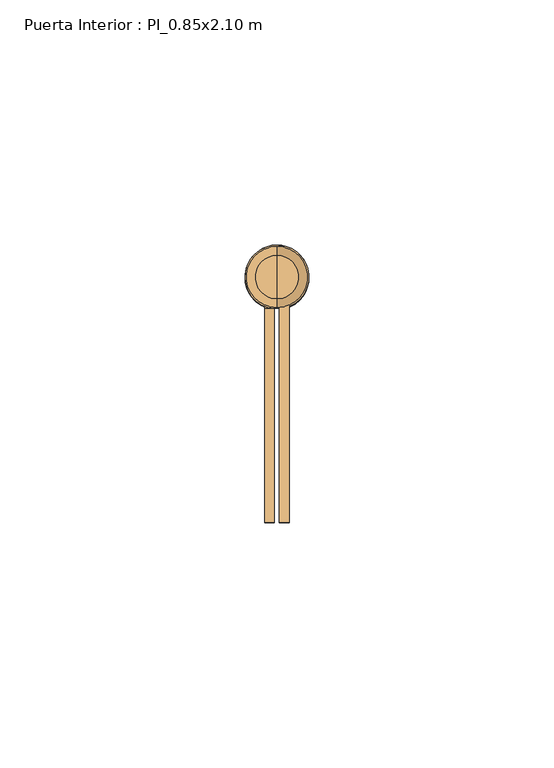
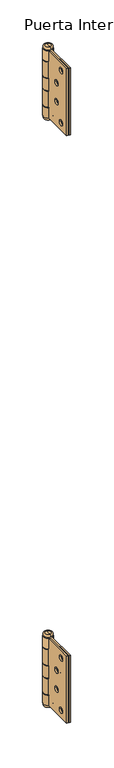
"""IFC4 building model written with IfcOpenShell, lengths in millimetres: door geometry, Puerta Interior : PI_0.85x2.10 m."""

from ifc_helpers import new_model, si_unit, point, frame, origin, place, context, project, spatial, polyline, circle_curve, ellipse_curve, trimmed, source, transform, mapped, element, save
from ifc_brep_helpers import plane_surface, cylinder_surface, revolved_surface, advanced_brep


def puerta_interior_pi_0_85x2_10_m_7d8cd98e(model_context):
    return source(origin(), model_context, "Body", "AdvancedBrep", [
        advanced_brep(
        [(-389.0, 7.5, 1950.0), (-389.0, 7.5, 1850.0), (-389.0, 51.5, 1850.0), (-389.0, 51.5, 1865.5), (-389.0, 51.0, 1865.5), (-389.0, 51.0, 1891.0), (-389.0, 51.5, 1891.0), (-389.0, 51.5, 1909.0), (-389.0, 51.0, 1909.0), (-389.0, 51.0, 1934.5), (-389.0, 51.5, 1934.5), (-389.0, 51.5, 1950.0), (-389.0, 17.5, 1861.0), (-389.0, 25.5, 1861.0), (-389.0, 28.5, 1886.0), (-389.0, 36.5, 1886.0), (-389.0, 17.5, 1939.0), (-389.0, 25.5, 1939.0), (-389.0, 28.5, 1914.0), (-389.0, 36.5, 1914.0), (-391.0, 7.5, 1850.0), (-391.0, 7.5, 1950.0), (-391.0, 53.027864, 1950.0), (-391.0, 53.027864, 1934.5), (-391.0, 51.0, 1934.5), (-391.0, 51.0, 1909.0), (-391.0, 53.027864, 1909.0), (-391.0, 53.027864, 1891.0), (-391.0, 51.0, 1891.0), (-391.0, 51.0, 1865.5), (-391.0, 53.027864, 1865.5), (-391.0, 53.027864, 1850.0), (-391.0, 25.5, 1861.0), (-391.0, 17.5, 1861.0), (-391.0, 36.5, 1886.0), (-391.0, 28.5, 1886.0), (-391.0, 25.5, 1939.0), (-391.0, 17.5, 1939.0), (-391.0, 36.5, 1914.0), (-391.0, 28.5, 1914.0), (-392.0, 53.027864, 1850.0), (-392.0, 51.0192593, 1850.0), (-392.0, 51.0192593, 1950.0), (-392.0, 53.027864, 1950.0), (-392.0, 53.027864, 1934.5), (-392.0, 51.0192593, 1934.5), (-392.0, 51.0192593, 1909.0), (-392.0, 53.027864, 1909.0), (-392.0, 53.027864, 1891.0), (-392.0, 51.0192593, 1891.0), (-392.0, 51.0192593, 1865.5), (-392.0, 53.027864, 1865.5)],
        [
            (0, 1),
            (1, 2),
            (2, 3),
            (3, 4),
            (4, 5),
            (5, 6),
            (6, 7),
            (7, 8),
            (8, 9),
            (9, 10),
            (10, 11),
            (11, 0),
            (12, 13, circle_curve(frame((-389.0, 21.5, 1861.0), z_axis=(-1.0, 0.0, 0.0), x_axis=(0.0, -1.0, 0.0)), 4.0)),
            (13, 12, circle_curve(frame((-389.0, 21.5, 1861.0), z_axis=(-1.0, 0.0, 0.0), x_axis=(0.0, -1.0, 0.0)), 4.0)),
            (14, 15, circle_curve(frame((-389.0, 32.5, 1886.0), z_axis=(-1.0, 0.0, 0.0), x_axis=(0.0, -1.0, 0.0)), 4.0)),
            (15, 14, circle_curve(frame((-389.0, 32.5, 1886.0), z_axis=(-1.0, 0.0, 0.0), x_axis=(0.0, -1.0, 0.0)), 4.0)),
            (16, 17, circle_curve(frame((-389.0, 21.5, 1939.0), z_axis=(-1.0, 0.0, 0.0), x_axis=(0.0, -1.0, 0.0)), 4.0)),
            (17, 16, circle_curve(frame((-389.0, 21.5, 1939.0), z_axis=(-1.0, 0.0, 0.0), x_axis=(0.0, -1.0, 0.0)), 4.0)),
            (18, 19, circle_curve(frame((-389.0, 32.5, 1914.0), z_axis=(-1.0, 0.0, 0.0), x_axis=(0.0, -1.0, 0.0)), 4.0)),
            (19, 18, circle_curve(frame((-389.0, 32.5, 1914.0), z_axis=(-1.0, 0.0, 0.0), x_axis=(0.0, -1.0, 0.0)), 4.0)),
            (20, 21),
            (21, 22),
            (22, 23),
            (23, 24),
            (24, 25),
            (25, 26),
            (26, 27),
            (27, 28),
            (28, 29),
            (29, 30),
            (30, 31),
            (31, 20),
            (32, 33, circle_curve(frame((-391.0, 21.5, 1861.0), z_axis=(1.0, 0.0, 0.0), x_axis=(0.0, -1.0, 0.0)), 4.0)),
            (33, 32, circle_curve(frame((-391.0, 21.5, 1861.0), z_axis=(1.0, 0.0, 0.0), x_axis=(0.0, -1.0, 0.0)), 4.0)),
            (34, 35, circle_curve(frame((-391.0, 32.5, 1886.0), z_axis=(1.0, 0.0, 0.0), x_axis=(0.0, -1.0, 0.0)), 4.0)),
            (35, 34, circle_curve(frame((-391.0, 32.5, 1886.0), z_axis=(1.0, 0.0, 0.0), x_axis=(0.0, -1.0, 0.0)), 4.0)),
            (36, 37, circle_curve(frame((-391.0, 21.5, 1939.0), z_axis=(1.0, 0.0, 0.0), x_axis=(0.0, -1.0, 0.0)), 4.0)),
            (37, 36, circle_curve(frame((-391.0, 21.5, 1939.0), z_axis=(1.0, 0.0, 0.0), x_axis=(0.0, -1.0, 0.0)), 4.0)),
            (38, 39, circle_curve(frame((-391.0, 32.5, 1914.0), z_axis=(1.0, 0.0, 0.0), x_axis=(0.0, -1.0, 0.0)), 4.0)),
            (39, 38, circle_curve(frame((-391.0, 32.5, 1914.0), z_axis=(1.0, 0.0, 0.0), x_axis=(0.0, -1.0, 0.0)), 4.0)),
            (1, 20),
            (31, 40, circle_curve(frame((-391.5, 57.5, 1850.0), z_axis=(0.0, 0.0, 1.0), x_axis=(0.0, 1.0, 0.0)), 4.5)),
            (40, 41),
            (41, 2, circle_curve(frame((-391.5, 57.5, 1850.0), z_axis=(0.0, 0.0, -1.0), x_axis=(0.0, 1.0, 0.0)), 6.5)),
            (0, 21),
            (11, 42, circle_curve(frame((-391.5, 57.5, 1950.0), z_axis=(0.0, 0.0, 1.0), x_axis=(0.0, 1.0, 0.0)), 6.5)),
            (42, 43),
            (43, 22, circle_curve(frame((-391.5, 57.5, 1950.0), z_axis=(0.0, 0.0, -1.0), x_axis=(0.0, 1.0, 0.0)), 4.5)),
            (24, 9),
            (8, 25),
            (28, 5),
            (4, 29),
            (23, 44, circle_curve(frame((-391.5, 57.5, 1934.5), z_axis=(0.0, 0.0, 1.0), x_axis=(0.0, 1.0, 0.0)), 4.5)),
            (44, 45),
            (45, 10, circle_curve(frame((-391.5, 57.5, 1934.5), z_axis=(0.0, 0.0, -1.0), x_axis=(0.0, 1.0, 0.0)), 6.5)),
            (45, 42),
            (44, 43),
            (7, 46, circle_curve(frame((-391.5, 57.5, 1909.0), z_axis=(0.0, 0.0, 1.0), x_axis=(0.0, 1.0, 0.0)), 6.5)),
            (46, 47),
            (47, 26, circle_curve(frame((-391.5, 57.5, 1909.0), z_axis=(0.0, 0.0, -1.0), x_axis=(0.0, 1.0, 0.0)), 4.5)),
            (27, 48, circle_curve(frame((-391.5, 57.5, 1891.0), z_axis=(0.0, 0.0, 1.0), x_axis=(0.0, 1.0, 0.0)), 4.5)),
            (48, 49),
            (49, 6, circle_curve(frame((-391.5, 57.5, 1891.0), z_axis=(0.0, 0.0, -1.0), x_axis=(0.0, 1.0, 0.0)), 6.5)),
            (49, 46),
            (48, 47),
            (3, 50, circle_curve(frame((-391.5, 57.5, 1865.5), z_axis=(0.0, 0.0, 1.0), x_axis=(0.0, 1.0, 0.0)), 6.5)),
            (50, 51),
            (51, 30, circle_curve(frame((-391.5, 57.5, 1865.5), z_axis=(0.0, 0.0, -1.0), x_axis=(0.0, 1.0, 0.0)), 4.5)),
            (41, 50),
            (40, 51),
            (32, 13),
            (12, 33),
            (34, 15),
            (14, 35),
            (36, 17),
            (16, 37),
            (38, 19),
            (18, 39),
        ],
        [
            plane_surface(frame((-389.0, 51.0, 1850.0), z_axis=(1.0, 0.0, 0.0), x_axis=(0.0, 0.0, 1.0))),
            plane_surface(frame((-391.0, 51.0, 1850.0), z_axis=(-1.0, 0.0, 0.0), x_axis=(0.0, 0.0, -1.0))),
            plane_surface(frame((-389.0, 7.5, 1850.0), z_axis=(0.0, 0.0, -1.0), x_axis=(-1.0, 0.0, 0.0))),
            plane_surface(frame((-389.0, 7.5, 1950.0), z_axis=(0.0, -1.0, 0.0), x_axis=(-1.0, 0.0, 0.0))),
            plane_surface(frame((-389.0, 51.0, 1950.0), z_axis=(0.0, 0.0, 1.0), x_axis=(-1.0, 0.0, 0.0))),
            plane_surface(frame((-389.0, 51.0, 1850.0), z_axis=(0.0, 1.0, 0.0), x_axis=(-1.0, 0.0, 0.0))),
            plane_surface(frame((-391.0, 51.0, 1934.5), z_axis=(0.0, 0.0, -1.0), x_axis=(0.0, 1.0, 0.0))),
            cylinder_surface(frame((-391.5, 57.5, 1934.5), z_axis=(0.0, 0.0, 1.0), x_axis=(0.0, 1.0, 0.0)), 6.5),
            plane_surface(frame((-392.0, 51.0192593, 1950.0), z_axis=(1.0, 0.0, 0.0), x_axis=(0.0, 0.0, -1.0))),
            revolved_surface(polyline([(-391.5, 62.0, 1934.5), (-391.5, 62.0, 1950.0)]), (-391.5, 57.5, 1934.5), (0.0, 0.0, -1.0)),
            plane_surface(frame((-391.0, 51.0, 1909.0), z_axis=(0.0, 0.0, 1.0), x_axis=(0.0, -1.0, 0.0))),
            plane_surface(frame((-391.0, 51.0, 1891.0), z_axis=(0.0, 0.0, -1.0), x_axis=(0.0, 1.0, 0.0))),
            cylinder_surface(frame((-391.5, 57.5, 1891.0), z_axis=(0.0, 0.0, 1.0), x_axis=(0.0, 1.0, 0.0)), 6.5),
            plane_surface(frame((-392.0, 51.0192593, 1909.0), z_axis=(1.0, 0.0, 0.0), x_axis=(0.0, 0.0, -1.0))),
            revolved_surface(polyline([(-391.5, 62.0, 1891.0), (-391.5, 62.0, 1909.0)]), (-391.5, 57.5, 1891.0), (0.0, 0.0, -1.0)),
            plane_surface(frame((-391.0, 51.0, 1865.5), z_axis=(0.0, 0.0, 1.0), x_axis=(0.0, -1.0, 0.0))),
            cylinder_surface(frame((-391.5, 57.5, 1850.0), z_axis=(0.0, 0.0, 1.0), x_axis=(0.0, 1.0, 0.0)), 6.5),
            plane_surface(frame((-392.0, 51.0192593, 1865.5), z_axis=(1.0, 0.0, 0.0), x_axis=(0.0, 0.0, -1.0))),
            revolved_surface(polyline([(-391.5, 62.0, 1850.0), (-391.5, 62.0, 1865.5)]), (-391.5, 57.5, 1850.0), (0.0, 0.0, -1.0)),
            revolved_surface(polyline([(-389.0, 17.5, 1861.0), (-391.0, 17.5, 1861.0)]), (-394.0, 21.5, 1861.0), (1.0, 0.0, 0.0)),
            revolved_surface(polyline([(-389.0, 28.5, 1886.0), (-391.0, 28.5, 1886.0)]), (-392.0, 32.5, 1886.0), (1.0, 0.0, 0.0)),
            revolved_surface(polyline([(-389.0, 17.5, 1939.0), (-391.0, 17.5, 1939.0)]), (-392.0, 21.5, 1939.0), (1.0, 0.0, 0.0)),
            revolved_surface(polyline([(-389.0, 28.5, 1914.0), (-391.0, 28.5, 1914.0)]), (-392.0, 32.5, 1914.0), (1.0, 0.0, 0.0)),
        ],
        [
            (0, [[1, 2, 3, 4, 5, 6, 7, 8, 9, 10, 11, 12], [13, 14], [15, 16], [17, 18], [19, 20]]),
            (1, [[21, 22, 23, 24, 25, 26, 27, 28, 29, 30, 31, 32], [33, 34], [35, 36], [37, 38], [39, 40]]),
            (2, [[41, -32, 42, 43, 44, -2]]),
            (3, [[-1, 45, -21, -41]]),
            (4, [[-45, -12, 46, 47, 48, -22]]),
            (5, [[49, -9, 50, -25]]),
            (5, [[51, -5, 52, -29]]),
            (6, [[53, 54, 55, -10, -49, -24]]),
            (7, [[-46, -11, -55, 56]]),
            (8, [[-47, -56, -54, 57]]),
            (9, [[-48, -57, -53, -23]]),
            (10, [[58, 59, 60, -26, -50, -8]]),
            (11, [[61, 62, 63, -6, -51, -28]]),
            (12, [[-58, -7, -63, 64]]),
            (13, [[-59, -64, -62, 65]]),
            (14, [[-60, -65, -61, -27]]),
            (15, [[66, 67, 68, -30, -52, -4]]),
            (16, [[-66, -3, -44, 69]]),
            (17, [[-67, -69, -43, 70]]),
            (18, [[-68, -70, -42, -31]]),
            (19, [[71, -13, 72, -33]]),
            (19, [[-71, -34, -72, -14]]),
            (20, [[73, -15, 74, -35]]),
            (20, [[-73, -36, -74, -16]]),
            (21, [[75, -17, 76, -37]]),
            (21, [[-75, -38, -76, -18]]),
            (22, [[77, -19, 78, -39]]),
            (22, [[-77, -40, -78, -20]]),
        ],
    ),
        advanced_brep(
        [(-391.5, 53.0, 1954.0), (-391.5, 61.9442719, 1954.0), (-391.5, 61.9442719, 1950.5), (-391.5, 53.0, 1950.5), (-391.5, 57.472136, 1954.0), (-391.5, 53.0, 1846.0), (-391.5, 61.9442719, 1846.0), (-391.5, 57.472136, 1846.0), (-391.5, 53.0, 1849.5), (-391.5, 61.9442719, 1849.5)],
        [
            (0, 1, circle_curve(frame((-391.5, 57.472136, 1954.0), z_axis=(0.0, 0.0, -1.0), x_axis=(0.0, 1.0, 0.0)), 4.472136)),
            (1, 2, circle_curve(frame((-391.5, 61.9442719, 1952.25), z_axis=(-1.0, 0.0, 0.0), x_axis=(0.0, -1.0, 0.0)), 1.75)),
            (2, 3, circle_curve(frame((-391.5, 57.472136, 1950.5), z_axis=(0.0, 0.0, 1.0), x_axis=(0.0, 1.0, 0.0)), 4.472136)),
            (3, 0, circle_curve(frame((-391.5, 53.0, 1952.25), z_axis=(-1.0, 0.0, 0.0), x_axis=(0.0, 1.0, 0.0)), 1.75)),
            (1, 0, circle_curve(frame((-391.5, 57.472136, 1954.0), z_axis=(0.0, 0.0, -1.0), x_axis=(0.0, 1.0, 0.0)), 4.472136)),
            (3, 2, circle_curve(frame((-391.5, 57.472136, 1950.5), z_axis=(0.0, 0.0, 1.0), x_axis=(0.0, 1.0, 0.0)), 4.472136)),
            (4, 1),
            (0, 4),
            (5, 6, circle_curve(frame((-391.5, 57.472136, 1846.0), z_axis=(0.0, 0.0, -1.0), x_axis=(0.0, 1.0, 0.0)), 4.472136)),
            (6, 7),
            (7, 5),
            (6, 5, circle_curve(frame((-391.5, 57.472136, 1846.0), z_axis=(0.0, 0.0, -1.0), x_axis=(0.0, 1.0, 0.0)), 4.472136)),
            (8, 9, circle_curve(frame((-391.5, 57.472136, 1849.5), z_axis=(0.0, 0.0, -1.0), x_axis=(0.0, 1.0, 0.0)), 4.472136)),
            (9, 6, circle_curve(frame((-391.5, 61.9442719, 1847.75), z_axis=(-1.0, 0.0, 0.0), x_axis=(0.0, -1.0, 0.0)), 1.75)),
            (5, 8, circle_curve(frame((-391.5, 53.0, 1847.75), z_axis=(-1.0, 0.0, 0.0), x_axis=(0.0, 1.0, 0.0)), 1.75)),
            (9, 8, circle_curve(frame((-391.5, 57.472136, 1849.5), z_axis=(0.0, 0.0, -1.0), x_axis=(0.0, 1.0, 0.0)), 4.472136)),
            (2, 9),
            (8, 3),
        ],
        [
            revolved_surface(trimmed(ellipse_curve(frame((-391.5, 61.9442719, 1952.25), z_axis=(1.0, 0.0, 0.0), x_axis=(0.0, -1.0, 0.0)), 1.75, 1.75), [point((-391.5, 61.9442719, 1950.5))], [point((-391.5, 61.9442719, 1954.0))], True, "CARTESIAN"), (-391.5, 57.472136, 1954.0), (0.0, 0.0, 1.0)),
            plane_surface(frame((-391.5, 57.472136, 1954.0), z_axis=(0.0, 0.0, 1.0), x_axis=(0.0, 1.0, 0.0))),
            plane_surface(frame((-391.5, 57.472136, 1846.0), z_axis=(0.0, 0.0, -1.0), x_axis=(0.0, 1.0, 0.0))),
            revolved_surface(trimmed(ellipse_curve(frame((-391.5, 61.9442719, 1847.75), z_axis=(1.0, 0.0, 0.0), x_axis=(0.0, -1.0, 0.0)), 1.75, 1.75), [point((-391.5, 61.9442719, 1846.0))], [point((-391.5, 61.9442719, 1849.5))], True, "CARTESIAN"), (-391.5, 57.472136, 1954.0), (0.0, 0.0, 1.0)),
            cylinder_surface(frame((-391.5, 57.472136, 1954.0), z_axis=(0.0, 0.0, 1.0), x_axis=(0.0, 1.0, 0.0)), 4.472136),
        ],
        [
            (0, [[1, 2, 3, 4]]),
            (0, [[5, -4, 6, -2]]),
            (1, [[7, -1, 8]]),
            (1, [[-8, -5, -7]]),
            (2, [[9, 10, 11]]),
            (2, [[12, -11, -10]]),
            (3, [[13, 14, -9, 15]]),
            (3, [[16, -15, -12, -14]]),
            (4, [[-3, 17, -13, 18]]),
            (4, [[-6, -18, -16, -17]]),
        ],
    ),
        advanced_brep(
        [(-392.0, 51.0, 1950.0), (-392.0, 7.5, 1950.0), (-392.0, 7.5, 1850.0), (-392.0, 51.0, 1850.0), (-392.0, 51.0, 1866.5), (-392.0, 53.027864, 1866.5), (-392.0, 53.027864, 1890.0), (-392.0, 51.0, 1890.0), (-392.0, 51.0, 1910.0), (-392.0, 53.027864, 1910.0), (-392.0, 53.027864, 1933.5), (-392.0, 51.0, 1933.5), (-392.0, 17.5, 1861.0), (-392.0, 25.5, 1861.0), (-392.0, 28.5, 1886.0), (-392.0, 36.5, 1886.0), (-392.0, 17.5, 1939.0), (-392.0, 25.5, 1939.0), (-392.0, 28.5, 1914.0), (-392.0, 36.5, 1914.0), (-394.0, 51.0, 1850.0), (-394.0, 7.5, 1850.0), (-394.0, 7.5, 1950.0), (-394.0, 51.0, 1950.0), (-394.0, 51.0, 1933.5), (-394.0, 51.5, 1933.5), (-394.0, 51.5, 1910.0), (-394.0, 51.0, 1910.0), (-394.0, 51.0, 1890.0), (-394.0, 51.5, 1890.0), (-394.0, 51.5, 1866.5), (-394.0, 51.0, 1866.5), (-394.0, 25.5, 1861.0), (-394.0, 17.5, 1861.0), (-394.0, 36.5, 1886.0), (-394.0, 28.5, 1886.0), (-394.0, 25.5, 1939.0), (-394.0, 17.5, 1939.0), (-394.0, 36.5, 1914.0), (-394.0, 28.5, 1914.0), (-391.0, 53.027864, 1933.5), (-391.0, 51.0192593, 1933.5), (-391.0, 51.0192593, 1910.0), (-391.0, 53.027864, 1910.0), (-391.0, 53.027864, 1890.0), (-391.0, 51.0192593, 1890.0), (-391.0, 51.0192593, 1866.5), (-391.0, 53.027864, 1866.5)],
        [
            (0, 1),
            (1, 2),
            (2, 3),
            (3, 4),
            (4, 5),
            (5, 6),
            (6, 7),
            (7, 8),
            (8, 9),
            (9, 10),
            (10, 11),
            (11, 0),
            (12, 13, circle_curve(frame((-392.0, 21.5, 1861.0), z_axis=(-1.0, 0.0, 0.0), x_axis=(0.0, -1.0, 0.0)), 4.0)),
            (13, 12, circle_curve(frame((-392.0, 21.5, 1861.0), z_axis=(-1.0, 0.0, 0.0), x_axis=(0.0, -1.0, 0.0)), 4.0)),
            (14, 15, circle_curve(frame((-392.0, 32.5, 1886.0), z_axis=(-1.0, 0.0, 0.0), x_axis=(0.0, -1.0, 0.0)), 4.0)),
            (15, 14, circle_curve(frame((-392.0, 32.5, 1886.0), z_axis=(-1.0, 0.0, 0.0), x_axis=(0.0, -1.0, 0.0)), 4.0)),
            (16, 17, circle_curve(frame((-392.0, 21.5, 1939.0), z_axis=(-1.0, 0.0, 0.0), x_axis=(0.0, -1.0, 0.0)), 4.0)),
            (17, 16, circle_curve(frame((-392.0, 21.5, 1939.0), z_axis=(-1.0, 0.0, 0.0), x_axis=(0.0, -1.0, 0.0)), 4.0)),
            (18, 19, circle_curve(frame((-392.0, 32.5, 1914.0), z_axis=(-1.0, 0.0, 0.0), x_axis=(0.0, -1.0, 0.0)), 4.0)),
            (19, 18, circle_curve(frame((-392.0, 32.5, 1914.0), z_axis=(-1.0, 0.0, 0.0), x_axis=(0.0, -1.0, 0.0)), 4.0)),
            (20, 21),
            (21, 22),
            (22, 23),
            (23, 24),
            (24, 25),
            (25, 26),
            (26, 27),
            (27, 28),
            (28, 29),
            (29, 30),
            (30, 31),
            (31, 20),
            (32, 33, circle_curve(frame((-394.0, 21.5, 1861.0), z_axis=(1.0, 0.0, 0.0), x_axis=(0.0, -1.0, 0.0)), 4.0)),
            (33, 32, circle_curve(frame((-394.0, 21.5, 1861.0), z_axis=(1.0, 0.0, 0.0), x_axis=(0.0, -1.0, 0.0)), 4.0)),
            (34, 35, circle_curve(frame((-394.0, 32.5, 1886.0), z_axis=(1.0, 0.0, 0.0), x_axis=(0.0, -1.0, 0.0)), 4.0)),
            (35, 34, circle_curve(frame((-394.0, 32.5, 1886.0), z_axis=(1.0, 0.0, 0.0), x_axis=(0.0, -1.0, 0.0)), 4.0)),
            (36, 37, circle_curve(frame((-394.0, 21.5, 1939.0), z_axis=(1.0, 0.0, 0.0), x_axis=(0.0, -1.0, 0.0)), 4.0)),
            (37, 36, circle_curve(frame((-394.0, 21.5, 1939.0), z_axis=(1.0, 0.0, 0.0), x_axis=(0.0, -1.0, 0.0)), 4.0)),
            (38, 39, circle_curve(frame((-394.0, 32.5, 1914.0), z_axis=(1.0, 0.0, 0.0), x_axis=(0.0, -1.0, 0.0)), 4.0)),
            (39, 38, circle_curve(frame((-394.0, 32.5, 1914.0), z_axis=(1.0, 0.0, 0.0), x_axis=(0.0, -1.0, 0.0)), 4.0)),
            (2, 21),
            (20, 3),
            (1, 22),
            (0, 23),
            (11, 24),
            (31, 4),
            (27, 8),
            (7, 28),
            (10, 40, circle_curve(frame((-391.5, 57.5, 1933.5), z_axis=(0.0, 0.0, -1.0), x_axis=(0.0, 1.0, 0.0)), 4.5)),
            (40, 41),
            (41, 25, circle_curve(frame((-391.5, 57.5, 1933.5), z_axis=(0.0, 0.0, 1.0), x_axis=(0.0, 1.0, 0.0)), 6.5)),
            (26, 42, circle_curve(frame((-391.5, 57.5, 1910.0), z_axis=(0.0, 0.0, -1.0), x_axis=(0.0, 1.0, 0.0)), 6.5)),
            (42, 43),
            (43, 9, circle_curve(frame((-391.5, 57.5, 1910.0), z_axis=(0.0, 0.0, 1.0), x_axis=(0.0, 1.0, 0.0)), 4.5)),
            (41, 42),
            (40, 43),
            (6, 44, circle_curve(frame((-391.5, 57.5, 1890.0), z_axis=(0.0, 0.0, -1.0), x_axis=(0.0, 1.0, 0.0)), 4.5)),
            (44, 45),
            (45, 29, circle_curve(frame((-391.5, 57.5, 1890.0), z_axis=(0.0, 0.0, 1.0), x_axis=(0.0, 1.0, 0.0)), 6.5)),
            (30, 46, circle_curve(frame((-391.5, 57.5, 1866.5), z_axis=(0.0, 0.0, -1.0), x_axis=(0.0, 1.0, 0.0)), 6.5)),
            (46, 47),
            (47, 5, circle_curve(frame((-391.5, 57.5, 1866.5), z_axis=(0.0, 0.0, 1.0), x_axis=(0.0, 1.0, 0.0)), 4.5)),
            (45, 46),
            (44, 47),
            (32, 13),
            (12, 33),
            (34, 15),
            (14, 35),
            (36, 17),
            (16, 37),
            (38, 19),
            (18, 39),
        ],
        [
            plane_surface(frame((-392.0, 51.0, 1850.0), z_axis=(1.0, 0.0, 0.0), x_axis=(0.0, 0.0, 1.0))),
            plane_surface(frame((-394.0, 51.0, 1850.0), z_axis=(-1.0, 0.0, 0.0), x_axis=(0.0, 0.0, -1.0))),
            plane_surface(frame((-392.0, 7.5, 1850.0), z_axis=(0.0, 0.0, -1.0), x_axis=(-1.0, 0.0, 0.0))),
            plane_surface(frame((-392.0, 7.5, 1950.0), z_axis=(0.0, -1.0, 0.0), x_axis=(-1.0, 0.0, 0.0))),
            plane_surface(frame((-392.0, 51.0, 1950.0), z_axis=(0.0, 0.0, 1.0), x_axis=(-1.0, 0.0, 0.0))),
            plane_surface(frame((-392.0, 51.0, 1850.0), z_axis=(0.0, 1.0, 0.0), x_axis=(-1.0, 0.0, 0.0))),
            plane_surface(frame((-391.5, 62.0, 1933.5), z_axis=(0.0, 0.0, 1.0), x_axis=(1.0, 0.0, 0.0))),
            plane_surface(frame((-391.5, 62.0, 1910.0), z_axis=(0.0, 0.0, -1.0), x_axis=(-1.0, 0.0, 0.0))),
            cylinder_surface(frame((-391.5, 57.5, 1910.0), z_axis=(0.0, 0.0, 1.0), x_axis=(0.0, 1.0, 0.0)), 6.5),
            plane_surface(frame((-391.0, 53.027864, 1933.5), z_axis=(-1.0, 0.0, 0.0), x_axis=(0.0, 0.0, -1.0))),
            revolved_surface(polyline([(-391.5, 62.0, 1910.0), (-391.5, 62.0, 1933.5)]), (-391.5, 57.5, 1910.0), (0.0, 0.0, -1.0)),
            plane_surface(frame((-391.5, 62.0, 1890.0), z_axis=(0.0, 0.0, 1.0), x_axis=(1.0, 0.0, 0.0))),
            plane_surface(frame((-391.5, 62.0, 1866.5), z_axis=(0.0, 0.0, -1.0), x_axis=(-1.0, 0.0, 0.0))),
            cylinder_surface(frame((-391.5, 57.5, 1866.5), z_axis=(0.0, 0.0, 1.0), x_axis=(0.0, 1.0, 0.0)), 6.5),
            plane_surface(frame((-391.0, 53.027864, 1890.0), z_axis=(-1.0, 0.0, 0.0), x_axis=(0.0, 0.0, -1.0))),
            revolved_surface(polyline([(-391.5, 62.0, 1866.5), (-391.5, 62.0, 1890.0)]), (-391.5, 57.5, 1866.5), (0.0, 0.0, -1.0)),
            revolved_surface(polyline([(-392.0, 17.5, 1861.0), (-394.0, 17.5, 1861.0)]), (-394.0, 21.5, 1861.0), (1.0, 0.0, 0.0)),
            revolved_surface(polyline([(-392.0, 28.5, 1886.0), (-394.0, 28.5, 1886.0)]), (-392.0, 32.5, 1886.0), (1.0, 0.0, 0.0)),
            revolved_surface(polyline([(-392.0, 17.5, 1939.0), (-394.0, 17.5, 1939.0)]), (-392.0, 21.5, 1939.0), (1.0, 0.0, 0.0)),
            revolved_surface(polyline([(-392.0, 28.5, 1914.0), (-394.0, 28.5, 1914.0)]), (-392.0, 32.5, 1914.0), (1.0, 0.0, 0.0)),
        ],
        [
            (0, [[1, 2, 3, 4, 5, 6, 7, 8, 9, 10, 11, 12], [13, 14], [15, 16], [17, 18], [19, 20]]),
            (1, [[21, 22, 23, 24, 25, 26, 27, 28, 29, 30, 31, 32], [33, 34], [35, 36], [37, 38], [39, 40]]),
            (2, [[-3, 41, -21, 42]]),
            (3, [[-2, 43, -22, -41]]),
            (4, [[-1, 44, -23, -43]]),
            (5, [[-44, -12, 45, -24]]),
            (5, [[-42, -32, 46, -4]]),
            (5, [[47, -8, 48, -28]]),
            (6, [[49, 50, 51, -25, -45, -11]]),
            (7, [[52, 53, 54, -9, -47, -27]]),
            (8, [[-51, 55, -52, -26]]),
            (9, [[-50, 56, -53, -55]]),
            (10, [[-49, -10, -54, -56]]),
            (11, [[57, 58, 59, -29, -48, -7]]),
            (12, [[60, 61, 62, -5, -46, -31]]),
            (13, [[-59, 63, -60, -30]]),
            (14, [[-58, 64, -61, -63]]),
            (15, [[-57, -6, -62, -64]]),
            (16, [[65, -13, 66, -33]]),
            (16, [[-65, -34, -66, -14]]),
            (17, [[67, -15, 68, -35]]),
            (17, [[-67, -36, -68, -16]]),
            (18, [[69, -17, 70, -37]]),
            (18, [[-69, -38, -70, -18]]),
            (19, [[71, -19, 72, -39]]),
            (19, [[-71, -40, -72, -20]]),
        ],
    ),
        advanced_brep(
        [(-389.0, 7.5, 1075.0174632), (-389.0, 7.5, 975.0174632), (-389.0, 51.5, 975.0174632), (-389.0, 51.5, 990.5174632), (-389.0, 51.0, 990.5174632), (-389.0, 51.0, 1016.0174632), (-389.0, 51.5, 1016.0174632), (-389.0, 51.5, 1034.0174632), (-389.0, 51.0, 1034.0174632), (-389.0, 51.0, 1059.5174632), (-389.0, 51.5, 1059.5174632), (-389.0, 51.5, 1075.0174632), (-389.0, 17.5, 986.0174632), (-389.0, 25.5, 986.0174632), (-389.0, 28.5, 1011.0174632), (-389.0, 36.5, 1011.0174632), (-389.0, 17.5, 1064.0174632), (-389.0, 25.5, 1064.0174632), (-389.0, 28.5, 1039.0174632), (-389.0, 36.5, 1039.0174632), (-391.0, 7.5, 975.0174632), (-391.0, 7.5, 1075.0174632), (-391.0, 53.027864, 1075.0174632), (-391.0, 53.027864, 1059.5174632), (-391.0, 51.0, 1059.5174632), (-391.0, 51.0, 1034.0174632), (-391.0, 53.027864, 1034.0174632), (-391.0, 53.027864, 1016.0174632), (-391.0, 51.0, 1016.0174632), (-391.0, 51.0, 990.5174632), (-391.0, 53.027864, 990.5174632), (-391.0, 53.027864, 975.0174632), (-391.0, 25.5, 986.0174632), (-391.0, 17.5, 986.0174632), (-391.0, 36.5, 1011.0174632), (-391.0, 28.5, 1011.0174632), (-391.0, 25.5, 1064.0174632), (-391.0, 17.5, 1064.0174632), (-391.0, 36.5, 1039.0174632), (-391.0, 28.5, 1039.0174632), (-392.0, 53.027864, 975.0174632), (-392.0, 51.0192593, 975.0174632), (-392.0, 51.0192593, 1075.0174632), (-392.0, 53.027864, 1075.0174632), (-392.0, 53.027864, 1059.5174632), (-392.0, 51.0192593, 1059.5174632), (-392.0, 51.0192593, 1034.0174632), (-392.0, 53.027864, 1034.0174632), (-392.0, 53.027864, 1016.0174632), (-392.0, 51.0192593, 1016.0174632), (-392.0, 51.0192593, 990.5174632), (-392.0, 53.027864, 990.5174632)],
        [
            (0, 1),
            (1, 2),
            (2, 3),
            (3, 4),
            (4, 5),
            (5, 6),
            (6, 7),
            (7, 8),
            (8, 9),
            (9, 10),
            (10, 11),
            (11, 0),
            (12, 13, circle_curve(frame((-389.0, 21.5, 986.0174632), z_axis=(-1.0, 0.0, 0.0), x_axis=(0.0, -1.0, 0.0)), 4.0)),
            (13, 12, circle_curve(frame((-389.0, 21.5, 986.0174632), z_axis=(-1.0, 0.0, 0.0), x_axis=(0.0, -1.0, 0.0)), 4.0)),
            (14, 15, circle_curve(frame((-389.0, 32.5, 1011.0174632), z_axis=(-1.0, 0.0, 0.0), x_axis=(0.0, -1.0, 0.0)), 4.0)),
            (15, 14, circle_curve(frame((-389.0, 32.5, 1011.0174632), z_axis=(-1.0, 0.0, 0.0), x_axis=(0.0, -1.0, 0.0)), 4.0)),
            (16, 17, circle_curve(frame((-389.0, 21.5, 1064.0174632), z_axis=(-1.0, 0.0, 0.0), x_axis=(0.0, -1.0, 0.0)), 4.0)),
            (17, 16, circle_curve(frame((-389.0, 21.5, 1064.0174632), z_axis=(-1.0, 0.0, 0.0), x_axis=(0.0, -1.0, 0.0)), 4.0)),
            (18, 19, circle_curve(frame((-389.0, 32.5, 1039.0174632), z_axis=(-1.0, 0.0, 0.0), x_axis=(0.0, -1.0, 0.0)), 4.0)),
            (19, 18, circle_curve(frame((-389.0, 32.5, 1039.0174632), z_axis=(-1.0, 0.0, 0.0), x_axis=(0.0, -1.0, 0.0)), 4.0)),
            (20, 21),
            (21, 22),
            (22, 23),
            (23, 24),
            (24, 25),
            (25, 26),
            (26, 27),
            (27, 28),
            (28, 29),
            (29, 30),
            (30, 31),
            (31, 20),
            (32, 33, circle_curve(frame((-391.0, 21.5, 986.0174632), z_axis=(1.0, 0.0, 0.0), x_axis=(0.0, -1.0, 0.0)), 4.0)),
            (33, 32, circle_curve(frame((-391.0, 21.5, 986.0174632), z_axis=(1.0, 0.0, 0.0), x_axis=(0.0, -1.0, 0.0)), 4.0)),
            (34, 35, circle_curve(frame((-391.0, 32.5, 1011.0174632), z_axis=(1.0, 0.0, 0.0), x_axis=(0.0, -1.0, 0.0)), 4.0)),
            (35, 34, circle_curve(frame((-391.0, 32.5, 1011.0174632), z_axis=(1.0, 0.0, 0.0), x_axis=(0.0, -1.0, 0.0)), 4.0)),
            (36, 37, circle_curve(frame((-391.0, 21.5, 1064.0174632), z_axis=(1.0, 0.0, 0.0), x_axis=(0.0, -1.0, 0.0)), 4.0)),
            (37, 36, circle_curve(frame((-391.0, 21.5, 1064.0174632), z_axis=(1.0, 0.0, 0.0), x_axis=(0.0, -1.0, 0.0)), 4.0)),
            (38, 39, circle_curve(frame((-391.0, 32.5, 1039.0174632), z_axis=(1.0, 0.0, 0.0), x_axis=(0.0, -1.0, 0.0)), 4.0)),
            (39, 38, circle_curve(frame((-391.0, 32.5, 1039.0174632), z_axis=(1.0, 0.0, 0.0), x_axis=(0.0, -1.0, 0.0)), 4.0)),
            (1, 20),
            (31, 40, circle_curve(frame((-391.5, 57.5, 975.0174632), z_axis=(0.0, 0.0, 1.0), x_axis=(0.0, 1.0, 0.0)), 4.5)),
            (40, 41),
            (41, 2, circle_curve(frame((-391.5, 57.5, 975.0174632), z_axis=(0.0, 0.0, -1.0), x_axis=(0.0, 1.0, 0.0)), 6.5)),
            (0, 21),
            (11, 42, circle_curve(frame((-391.5, 57.5, 1075.0174632), z_axis=(0.0, 0.0, 1.0), x_axis=(0.0, 1.0, 0.0)), 6.5)),
            (42, 43),
            (43, 22, circle_curve(frame((-391.5, 57.5, 1075.0174632), z_axis=(0.0, 0.0, -1.0), x_axis=(0.0, 1.0, 0.0)), 4.5)),
            (24, 9),
            (8, 25),
            (28, 5),
            (4, 29),
            (23, 44, circle_curve(frame((-391.5, 57.5, 1059.5174632), z_axis=(0.0, 0.0, 1.0), x_axis=(0.0, 1.0, 0.0)), 4.5)),
            (44, 45),
            (45, 10, circle_curve(frame((-391.5, 57.5, 1059.5174632), z_axis=(0.0, 0.0, -1.0), x_axis=(0.0, 1.0, 0.0)), 6.5)),
            (45, 42),
            (44, 43),
            (7, 46, circle_curve(frame((-391.5, 57.5, 1034.0174632), z_axis=(0.0, 0.0, 1.0), x_axis=(0.0, 1.0, 0.0)), 6.5)),
            (46, 47),
            (47, 26, circle_curve(frame((-391.5, 57.5, 1034.0174632), z_axis=(0.0, 0.0, -1.0), x_axis=(0.0, 1.0, 0.0)), 4.5)),
            (27, 48, circle_curve(frame((-391.5, 57.5, 1016.0174632), z_axis=(0.0, 0.0, 1.0), x_axis=(0.0, 1.0, 0.0)), 4.5)),
            (48, 49),
            (49, 6, circle_curve(frame((-391.5, 57.5, 1016.0174632), z_axis=(0.0, 0.0, -1.0), x_axis=(0.0, 1.0, 0.0)), 6.5)),
            (49, 46),
            (48, 47),
            (3, 50, circle_curve(frame((-391.5, 57.5, 990.5174632), z_axis=(0.0, 0.0, 1.0), x_axis=(0.0, 1.0, 0.0)), 6.5)),
            (50, 51),
            (51, 30, circle_curve(frame((-391.5, 57.5, 990.5174632), z_axis=(0.0, 0.0, -1.0), x_axis=(0.0, 1.0, 0.0)), 4.5)),
            (41, 50),
            (40, 51),
            (32, 13),
            (12, 33),
            (34, 15),
            (14, 35),
            (36, 17),
            (16, 37),
            (38, 19),
            (18, 39),
        ],
        [
            plane_surface(frame((-389.0, 51.0, 975.0174632), z_axis=(1.0, 0.0, 0.0), x_axis=(0.0, 0.0, 1.0))),
            plane_surface(frame((-391.0, 51.0, 975.0174632), z_axis=(-1.0, 0.0, 0.0), x_axis=(0.0, 0.0, -1.0))),
            plane_surface(frame((-389.0, 7.5, 975.0174632), z_axis=(0.0, 0.0, -1.0), x_axis=(-1.0, 0.0, 0.0))),
            plane_surface(frame((-389.0, 7.5, 1075.0174632), z_axis=(0.0, -1.0, 0.0), x_axis=(-1.0, 0.0, 0.0))),
            plane_surface(frame((-389.0, 51.0, 1075.0174632), z_axis=(0.0, 0.0, 1.0), x_axis=(-1.0, 0.0, 0.0))),
            plane_surface(frame((-389.0, 51.0, 975.0174632), z_axis=(0.0, 1.0, 0.0), x_axis=(-1.0, 0.0, 0.0))),
            plane_surface(frame((-391.0, 51.0, 1059.5174632), z_axis=(0.0, 0.0, -1.0), x_axis=(0.0, 1.0, 0.0))),
            cylinder_surface(frame((-391.5, 57.5, 1059.5174632), z_axis=(0.0, 0.0, 1.0), x_axis=(0.0, 1.0, 0.0)), 6.5),
            plane_surface(frame((-392.0, 51.0192593, 1075.0174632), z_axis=(1.0, 0.0, 0.0), x_axis=(0.0, 0.0, -1.0))),
            revolved_surface(polyline([(-391.5, 62.0, 1059.5174632), (-391.5, 62.0, 1075.0174632)]), (-391.5, 57.5, 1059.5174632), (0.0, 0.0, -1.0)),
            plane_surface(frame((-391.0, 51.0, 1034.0174632), z_axis=(0.0, 0.0, 1.0), x_axis=(0.0, -1.0, 0.0))),
            plane_surface(frame((-391.0, 51.0, 1016.0174632), z_axis=(0.0, 0.0, -1.0), x_axis=(0.0, 1.0, 0.0))),
            cylinder_surface(frame((-391.5, 57.5, 1016.0174632), z_axis=(0.0, 0.0, 1.0), x_axis=(0.0, 1.0, 0.0)), 6.5),
            plane_surface(frame((-392.0, 51.0192593, 1034.0174632), z_axis=(1.0, 0.0, 0.0), x_axis=(0.0, 0.0, -1.0))),
            revolved_surface(polyline([(-391.5, 62.0, 1016.0174632), (-391.5, 62.0, 1034.0174632)]), (-391.5, 57.5, 1016.0174632), (0.0, 0.0, -1.0)),
            plane_surface(frame((-391.0, 51.0, 990.5174632), z_axis=(0.0, 0.0, 1.0), x_axis=(0.0, -1.0, 0.0))),
            cylinder_surface(frame((-391.5, 57.5, 975.0174632), z_axis=(0.0, 0.0, 1.0), x_axis=(0.0, 1.0, 0.0)), 6.5),
            plane_surface(frame((-392.0, 51.0192593, 990.5174632), z_axis=(1.0, 0.0, 0.0), x_axis=(0.0, 0.0, -1.0))),
            revolved_surface(polyline([(-391.5, 62.0, 975.0174632), (-391.5, 62.0, 990.5174632)]), (-391.5, 57.5, 975.0174632), (0.0, 0.0, -1.0)),
            revolved_surface(polyline([(-389.0, 17.5, 986.0174632), (-391.0, 17.5, 986.0174632)]), (-394.0, 21.5, 986.0174632), (1.0, 0.0, 0.0)),
            revolved_surface(polyline([(-389.0, 28.5, 1011.0174632), (-391.0, 28.5, 1011.0174632)]), (-392.0, 32.5, 1011.0174632), (1.0, 0.0, 0.0)),
            revolved_surface(polyline([(-389.0, 17.5, 1064.0174632), (-391.0, 17.5, 1064.0174632)]), (-392.0, 21.5, 1064.0174632), (1.0, 0.0, 0.0)),
            revolved_surface(polyline([(-389.0, 28.5, 1039.0174632), (-391.0, 28.5, 1039.0174632)]), (-392.0, 32.5, 1039.0174632), (1.0, 0.0, 0.0)),
        ],
        [
            (0, [[1, 2, 3, 4, 5, 6, 7, 8, 9, 10, 11, 12], [13, 14], [15, 16], [17, 18], [19, 20]]),
            (1, [[21, 22, 23, 24, 25, 26, 27, 28, 29, 30, 31, 32], [33, 34], [35, 36], [37, 38], [39, 40]]),
            (2, [[41, -32, 42, 43, 44, -2]]),
            (3, [[-1, 45, -21, -41]]),
            (4, [[-45, -12, 46, 47, 48, -22]]),
            (5, [[49, -9, 50, -25]]),
            (5, [[51, -5, 52, -29]]),
            (6, [[53, 54, 55, -10, -49, -24]]),
            (7, [[-46, -11, -55, 56]]),
            (8, [[-47, -56, -54, 57]]),
            (9, [[-48, -57, -53, -23]]),
            (10, [[58, 59, 60, -26, -50, -8]]),
            (11, [[61, 62, 63, -6, -51, -28]]),
            (12, [[-58, -7, -63, 64]]),
            (13, [[-59, -64, -62, 65]]),
            (14, [[-60, -65, -61, -27]]),
            (15, [[66, 67, 68, -30, -52, -4]]),
            (16, [[-66, -3, -44, 69]]),
            (17, [[-67, -69, -43, 70]]),
            (18, [[-68, -70, -42, -31]]),
            (19, [[71, -13, 72, -33]]),
            (19, [[-71, -34, -72, -14]]),
            (20, [[73, -15, 74, -35]]),
            (20, [[-73, -36, -74, -16]]),
            (21, [[75, -17, 76, -37]]),
            (21, [[-75, -38, -76, -18]]),
            (22, [[77, -19, 78, -39]]),
            (22, [[-77, -40, -78, -20]]),
        ],
    ),
        advanced_brep(
        [(-391.5, 53.0, 1079.0174632), (-391.5, 61.9442719, 1079.0174632), (-391.5, 61.9442719, 1075.5174632), (-391.5, 53.0, 1075.5174632), (-391.5, 57.472136, 1079.0174632), (-391.5, 53.0, 971.0174632), (-391.5, 61.9442719, 971.0174632), (-391.5, 57.472136, 971.0174632), (-391.5, 53.0, 974.5174632), (-391.5, 61.9442719, 974.5174632)],
        [
            (0, 1, circle_curve(frame((-391.5, 57.472136, 1079.0174632), z_axis=(0.0, 0.0, -1.0), x_axis=(0.0, 1.0, 0.0)), 4.472136)),
            (1, 2, circle_curve(frame((-391.5, 61.9442719, 1077.2674632), z_axis=(-1.0, 0.0, 0.0), x_axis=(0.0, -1.0, 0.0)), 1.75)),
            (2, 3, circle_curve(frame((-391.5, 57.472136, 1075.5174632), z_axis=(0.0, 0.0, 1.0), x_axis=(0.0, 1.0, 0.0)), 4.472136)),
            (3, 0, circle_curve(frame((-391.5, 53.0, 1077.2674632), z_axis=(-1.0, 0.0, 0.0), x_axis=(0.0, 1.0, 0.0)), 1.75)),
            (1, 0, circle_curve(frame((-391.5, 57.472136, 1079.0174632), z_axis=(0.0, 0.0, -1.0), x_axis=(0.0, 1.0, 0.0)), 4.472136)),
            (3, 2, circle_curve(frame((-391.5, 57.472136, 1075.5174632), z_axis=(0.0, 0.0, 1.0), x_axis=(0.0, 1.0, 0.0)), 4.472136)),
            (4, 1),
            (0, 4),
            (5, 6, circle_curve(frame((-391.5, 57.472136, 971.0174632), z_axis=(0.0, 0.0, -1.0), x_axis=(0.0, 1.0, 0.0)), 4.472136)),
            (6, 7),
            (7, 5),
            (6, 5, circle_curve(frame((-391.5, 57.472136, 971.0174632), z_axis=(0.0, 0.0, -1.0), x_axis=(0.0, 1.0, 0.0)), 4.472136)),
            (8, 9, circle_curve(frame((-391.5, 57.472136, 974.5174632), z_axis=(0.0, 0.0, -1.0), x_axis=(0.0, 1.0, 0.0)), 4.472136)),
            (9, 6, circle_curve(frame((-391.5, 61.9442719, 972.7674632), z_axis=(-1.0, 0.0, 0.0), x_axis=(0.0, -1.0, 0.0)), 1.75)),
            (5, 8, circle_curve(frame((-391.5, 53.0, 972.7674632), z_axis=(-1.0, 0.0, 0.0), x_axis=(0.0, 1.0, 0.0)), 1.75)),
            (9, 8, circle_curve(frame((-391.5, 57.472136, 974.5174632), z_axis=(0.0, 0.0, -1.0), x_axis=(0.0, 1.0, 0.0)), 4.472136)),
            (2, 9),
            (8, 3),
        ],
        [
            revolved_surface(trimmed(ellipse_curve(frame((-391.5, 61.9442719, 1077.2674632), z_axis=(1.0, 0.0, 0.0), x_axis=(0.0, -1.0, 0.0)), 1.75, 1.75), [point((-391.5, 61.9442719, 1075.5174632))], [point((-391.5, 61.9442719, 1079.0174632))], True, "CARTESIAN"), (-391.5, 57.472136, 1079.0174632), (0.0, 0.0, 1.0)),
            plane_surface(frame((-391.5, 57.472136, 1079.0174632), z_axis=(0.0, 0.0, 1.0), x_axis=(0.0, 1.0, 0.0))),
            plane_surface(frame((-391.5, 57.472136, 971.0174632), z_axis=(0.0, 0.0, -1.0), x_axis=(0.0, 1.0, 0.0))),
            revolved_surface(trimmed(ellipse_curve(frame((-391.5, 61.9442719, 972.7674632), z_axis=(1.0, 0.0, 0.0), x_axis=(0.0, -1.0, 0.0)), 1.75, 1.75), [point((-391.5, 61.9442719, 971.0174632))], [point((-391.5, 61.9442719, 974.5174632))], True, "CARTESIAN"), (-391.5, 57.472136, 1079.0174632), (0.0, 0.0, 1.0)),
            cylinder_surface(frame((-391.5, 57.472136, 1079.0174632), z_axis=(0.0, 0.0, 1.0), x_axis=(0.0, 1.0, 0.0)), 4.472136),
        ],
        [
            (0, [[1, 2, 3, 4]]),
            (0, [[5, -4, 6, -2]]),
            (1, [[7, -1, 8]]),
            (1, [[-8, -5, -7]]),
            (2, [[9, 10, 11]]),
            (2, [[12, -11, -10]]),
            (3, [[13, 14, -9, 15]]),
            (3, [[16, -15, -12, -14]]),
            (4, [[-3, 17, -13, 18]]),
            (4, [[-6, -18, -16, -17]]),
        ],
    ),
        advanced_brep(
        [(-392.0, 51.0, 1075.0174632), (-392.0, 7.5, 1075.0174632), (-392.0, 7.5, 975.0174632), (-392.0, 51.0, 975.0174632), (-392.0, 51.0, 991.5174632), (-392.0, 53.027864, 991.5174632), (-392.0, 53.027864, 1015.0174632), (-392.0, 51.0, 1015.0174632), (-392.0, 51.0, 1035.0174632), (-392.0, 53.027864, 1035.0174632), (-392.0, 53.027864, 1058.5174632), (-392.0, 51.0, 1058.5174632), (-392.0, 17.5, 986.0174632), (-392.0, 25.5, 986.0174632), (-392.0, 28.5, 1011.0174632), (-392.0, 36.5, 1011.0174632), (-392.0, 17.5, 1064.0174632), (-392.0, 25.5, 1064.0174632), (-392.0, 28.5, 1039.0174632), (-392.0, 36.5, 1039.0174632), (-394.0, 51.0, 975.0174632), (-394.0, 7.5, 975.0174632), (-394.0, 7.5, 1075.0174632), (-394.0, 51.0, 1075.0174632), (-394.0, 51.0, 1058.5174632), (-394.0, 51.5, 1058.5174632), (-394.0, 51.5, 1035.0174632), (-394.0, 51.0, 1035.0174632), (-394.0, 51.0, 1015.0174632), (-394.0, 51.5, 1015.0174632), (-394.0, 51.5, 991.5174632), (-394.0, 51.0, 991.5174632), (-394.0, 25.5, 986.0174632), (-394.0, 17.5, 986.0174632), (-394.0, 36.5, 1011.0174632), (-394.0, 28.5, 1011.0174632), (-394.0, 25.5, 1064.0174632), (-394.0, 17.5, 1064.0174632), (-394.0, 36.5, 1039.0174632), (-394.0, 28.5, 1039.0174632), (-391.0, 53.027864, 1058.5174632), (-391.0, 51.0192593, 1058.5174632), (-391.0, 51.0192593, 1035.0174632), (-391.0, 53.027864, 1035.0174632), (-391.0, 53.027864, 1015.0174632), (-391.0, 51.0192593, 1015.0174632), (-391.0, 51.0192593, 991.5174632), (-391.0, 53.027864, 991.5174632)],
        [
            (0, 1),
            (1, 2),
            (2, 3),
            (3, 4),
            (4, 5),
            (5, 6),
            (6, 7),
            (7, 8),
            (8, 9),
            (9, 10),
            (10, 11),
            (11, 0),
            (12, 13, circle_curve(frame((-392.0, 21.5, 986.0174632), z_axis=(-1.0, 0.0, 0.0), x_axis=(0.0, -1.0, 0.0)), 4.0)),
            (13, 12, circle_curve(frame((-392.0, 21.5, 986.0174632), z_axis=(-1.0, 0.0, 0.0), x_axis=(0.0, -1.0, 0.0)), 4.0)),
            (14, 15, circle_curve(frame((-392.0, 32.5, 1011.0174632), z_axis=(-1.0, 0.0, 0.0), x_axis=(0.0, -1.0, 0.0)), 4.0)),
            (15, 14, circle_curve(frame((-392.0, 32.5, 1011.0174632), z_axis=(-1.0, 0.0, 0.0), x_axis=(0.0, -1.0, 0.0)), 4.0)),
            (16, 17, circle_curve(frame((-392.0, 21.5, 1064.0174632), z_axis=(-1.0, 0.0, 0.0), x_axis=(0.0, -1.0, 0.0)), 4.0)),
            (17, 16, circle_curve(frame((-392.0, 21.5, 1064.0174632), z_axis=(-1.0, 0.0, 0.0), x_axis=(0.0, -1.0, 0.0)), 4.0)),
            (18, 19, circle_curve(frame((-392.0, 32.5, 1039.0174632), z_axis=(-1.0, 0.0, 0.0), x_axis=(0.0, -1.0, 0.0)), 4.0)),
            (19, 18, circle_curve(frame((-392.0, 32.5, 1039.0174632), z_axis=(-1.0, 0.0, 0.0), x_axis=(0.0, -1.0, 0.0)), 4.0)),
            (20, 21),
            (21, 22),
            (22, 23),
            (23, 24),
            (24, 25),
            (25, 26),
            (26, 27),
            (27, 28),
            (28, 29),
            (29, 30),
            (30, 31),
            (31, 20),
            (32, 33, circle_curve(frame((-394.0, 21.5, 986.0174632), z_axis=(1.0, 0.0, 0.0), x_axis=(0.0, -1.0, 0.0)), 4.0)),
            (33, 32, circle_curve(frame((-394.0, 21.5, 986.0174632), z_axis=(1.0, 0.0, 0.0), x_axis=(0.0, -1.0, 0.0)), 4.0)),
            (34, 35, circle_curve(frame((-394.0, 32.5, 1011.0174632), z_axis=(1.0, 0.0, 0.0), x_axis=(0.0, -1.0, 0.0)), 4.0)),
            (35, 34, circle_curve(frame((-394.0, 32.5, 1011.0174632), z_axis=(1.0, 0.0, 0.0), x_axis=(0.0, -1.0, 0.0)), 4.0)),
            (36, 37, circle_curve(frame((-394.0, 21.5, 1064.0174632), z_axis=(1.0, 0.0, 0.0), x_axis=(0.0, -1.0, 0.0)), 4.0)),
            (37, 36, circle_curve(frame((-394.0, 21.5, 1064.0174632), z_axis=(1.0, 0.0, 0.0), x_axis=(0.0, -1.0, 0.0)), 4.0)),
            (38, 39, circle_curve(frame((-394.0, 32.5, 1039.0174632), z_axis=(1.0, 0.0, 0.0), x_axis=(0.0, -1.0, 0.0)), 4.0)),
            (39, 38, circle_curve(frame((-394.0, 32.5, 1039.0174632), z_axis=(1.0, 0.0, 0.0), x_axis=(0.0, -1.0, 0.0)), 4.0)),
            (2, 21),
            (20, 3),
            (1, 22),
            (0, 23),
            (11, 24),
            (31, 4),
            (27, 8),
            (7, 28),
            (10, 40, circle_curve(frame((-391.5, 57.5, 1058.5174632), z_axis=(0.0, 0.0, -1.0), x_axis=(0.0, 1.0, 0.0)), 4.5)),
            (40, 41),
            (41, 25, circle_curve(frame((-391.5, 57.5, 1058.5174632), z_axis=(0.0, 0.0, 1.0), x_axis=(0.0, 1.0, 0.0)), 6.5)),
            (26, 42, circle_curve(frame((-391.5, 57.5, 1035.0174632), z_axis=(0.0, 0.0, -1.0), x_axis=(0.0, 1.0, 0.0)), 6.5)),
            (42, 43),
            (43, 9, circle_curve(frame((-391.5, 57.5, 1035.0174632), z_axis=(0.0, 0.0, 1.0), x_axis=(0.0, 1.0, 0.0)), 4.5)),
            (41, 42),
            (40, 43),
            (6, 44, circle_curve(frame((-391.5, 57.5, 1015.0174632), z_axis=(0.0, 0.0, -1.0), x_axis=(0.0, 1.0, 0.0)), 4.5)),
            (44, 45),
            (45, 29, circle_curve(frame((-391.5, 57.5, 1015.0174632), z_axis=(0.0, 0.0, 1.0), x_axis=(0.0, 1.0, 0.0)), 6.5)),
            (30, 46, circle_curve(frame((-391.5, 57.5, 991.5174632), z_axis=(0.0, 0.0, -1.0), x_axis=(0.0, 1.0, 0.0)), 6.5)),
            (46, 47),
            (47, 5, circle_curve(frame((-391.5, 57.5, 991.5174632), z_axis=(0.0, 0.0, 1.0), x_axis=(0.0, 1.0, 0.0)), 4.5)),
            (45, 46),
            (44, 47),
            (32, 13),
            (12, 33),
            (34, 15),
            (14, 35),
            (36, 17),
            (16, 37),
            (38, 19),
            (18, 39),
        ],
        [
            plane_surface(frame((-392.0, 51.0, 975.0174632), z_axis=(1.0, 0.0, 0.0), x_axis=(0.0, 0.0, 1.0))),
            plane_surface(frame((-394.0, 51.0, 975.0174632), z_axis=(-1.0, 0.0, 0.0), x_axis=(0.0, 0.0, -1.0))),
            plane_surface(frame((-392.0, 7.5, 975.0174632), z_axis=(0.0, 0.0, -1.0), x_axis=(-1.0, 0.0, 0.0))),
            plane_surface(frame((-392.0, 7.5, 1075.0174632), z_axis=(0.0, -1.0, 0.0), x_axis=(-1.0, 0.0, 0.0))),
            plane_surface(frame((-392.0, 51.0, 1075.0174632), z_axis=(0.0, 0.0, 1.0), x_axis=(-1.0, 0.0, 0.0))),
            plane_surface(frame((-392.0, 51.0, 975.0174632), z_axis=(0.0, 1.0, 0.0), x_axis=(-1.0, 0.0, 0.0))),
            plane_surface(frame((-391.5, 62.0, 1058.5174632), z_axis=(0.0, 0.0, 1.0), x_axis=(1.0, 0.0, 0.0))),
            plane_surface(frame((-391.5, 62.0, 1035.0174632), z_axis=(0.0, 0.0, -1.0), x_axis=(-1.0, 0.0, 0.0))),
            cylinder_surface(frame((-391.5, 57.5, 1035.0174632), z_axis=(0.0, 0.0, 1.0), x_axis=(0.0, 1.0, 0.0)), 6.5),
            plane_surface(frame((-391.0, 53.027864, 1058.5174632), z_axis=(-1.0, 0.0, 0.0), x_axis=(0.0, 0.0, -1.0))),
            revolved_surface(polyline([(-391.5, 62.0, 1035.0174632), (-391.5, 62.0, 1058.5174632)]), (-391.5, 57.5, 1035.0174632), (0.0, 0.0, -1.0)),
            plane_surface(frame((-391.5, 62.0, 1015.0174632), z_axis=(0.0, 0.0, 1.0), x_axis=(1.0, 0.0, 0.0))),
            plane_surface(frame((-391.5, 62.0, 991.5174632), z_axis=(0.0, 0.0, -1.0), x_axis=(-1.0, 0.0, 0.0))),
            cylinder_surface(frame((-391.5, 57.5, 991.5174632), z_axis=(0.0, 0.0, 1.0), x_axis=(0.0, 1.0, 0.0)), 6.5),
            plane_surface(frame((-391.0, 53.027864, 1015.0174632), z_axis=(-1.0, 0.0, 0.0), x_axis=(0.0, 0.0, -1.0))),
            revolved_surface(polyline([(-391.5, 62.0, 991.5174632), (-391.5, 62.0, 1015.0174632)]), (-391.5, 57.5, 991.5174632), (0.0, 0.0, -1.0)),
            revolved_surface(polyline([(-392.0, 17.5, 986.0174632), (-394.0, 17.5, 986.0174632)]), (-394.0, 21.5, 986.0174632), (1.0, 0.0, 0.0)),
            revolved_surface(polyline([(-392.0, 28.5, 1011.0174632), (-394.0, 28.5, 1011.0174632)]), (-392.0, 32.5, 1011.0174632), (1.0, 0.0, 0.0)),
            revolved_surface(polyline([(-392.0, 17.5, 1064.0174632), (-394.0, 17.5, 1064.0174632)]), (-392.0, 21.5, 1064.0174632), (1.0, 0.0, 0.0)),
            revolved_surface(polyline([(-392.0, 28.5, 1039.0174632), (-394.0, 28.5, 1039.0174632)]), (-392.0, 32.5, 1039.0174632), (1.0, 0.0, 0.0)),
        ],
        [
            (0, [[1, 2, 3, 4, 5, 6, 7, 8, 9, 10, 11, 12], [13, 14], [15, 16], [17, 18], [19, 20]]),
            (1, [[21, 22, 23, 24, 25, 26, 27, 28, 29, 30, 31, 32], [33, 34], [35, 36], [37, 38], [39, 40]]),
            (2, [[-3, 41, -21, 42]]),
            (3, [[-2, 43, -22, -41]]),
            (4, [[-1, 44, -23, -43]]),
            (5, [[-44, -12, 45, -24]]),
            (5, [[-42, -32, 46, -4]]),
            (5, [[47, -8, 48, -28]]),
            (6, [[49, 50, 51, -25, -45, -11]]),
            (7, [[52, 53, 54, -9, -47, -27]]),
            (8, [[-51, 55, -52, -26]]),
            (9, [[-50, 56, -53, -55]]),
            (10, [[-49, -10, -54, -56]]),
            (11, [[57, 58, 59, -29, -48, -7]]),
            (12, [[60, 61, 62, -5, -46, -31]]),
            (13, [[-59, 63, -60, -30]]),
            (14, [[-58, 64, -61, -63]]),
            (15, [[-57, -6, -62, -64]]),
            (16, [[65, -13, 66, -33]]),
            (16, [[-65, -34, -66, -14]]),
            (17, [[67, -15, 68, -35]]),
            (17, [[-67, -36, -68, -16]]),
            (18, [[69, -17, 70, -37]]),
            (18, [[-69, -38, -70, -18]]),
            (19, [[71, -19, 72, -39]]),
            (19, [[-71, -40, -72, -20]]),
        ],
    ),
    ])


if __name__ == "__main__":
    model = new_model("IFC4")
    model_context = context("Model", 3, world=origin())
    ifc_project = project(units=[si_unit("LENGTHUNIT", "METRE", prefix="MILLI")], contexts=[model_context])
    site = spatial("IfcSite", under=ifc_project)
    building = spatial("IfcBuilding", under=site)
    placement = place(None, origin())
    puerta_interior_pi_0_85x2_10_m_shape = puerta_interior_pi_0_85x2_10_m_7d8cd98e(model_context)
    element("IfcDoor", 1, ObjectType="Puerta Interior : PI_0.85x2.10 m", at=placement, inside=building, context=model_context, shape_type="MappedRepresentation", body=[
        mapped(puerta_interior_pi_0_85x2_10_m_shape, transform((0.0, 0.0, 0.0), x_axis=(1.0, 0.0, 0.0), y_axis=(0.0, 1.0, 0.0), z_axis=(0.0, 0.0, 1.0))),
    ])
    save(model, "model.ifc")
